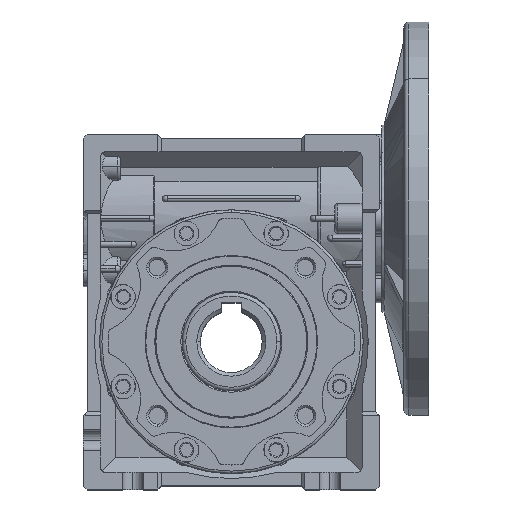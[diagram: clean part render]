
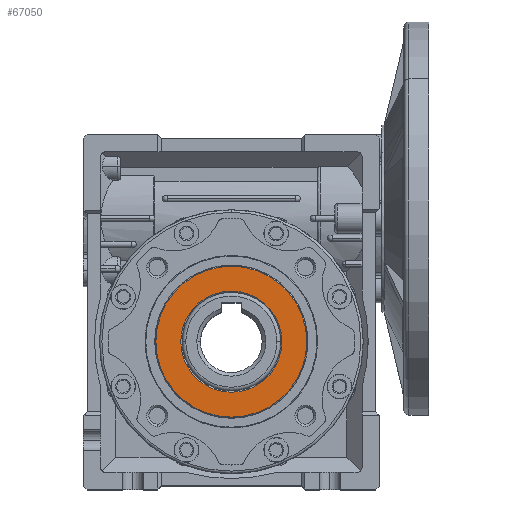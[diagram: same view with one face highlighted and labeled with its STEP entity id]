
A CAD part, top view. The second image highlights one B-rep face of the part: STEP entity #67050.
In plain terms, the highlighted planar face has unit normal (0, 0, 1).
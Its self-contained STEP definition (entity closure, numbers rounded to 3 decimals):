
#1770 = DIRECTION ( 'NONE',  ( 1., 0., 0. ) ) ;
#5031 = EDGE_CURVE ( 'NONE', #17687, #50623, #66646, .T. ) ;
#7743 = CIRCLE ( 'NONE', #42664, 20.5 ) ;
#8557 = CIRCLE ( 'NONE', #25855, 30.6 ) ;
#9462 = CARTESIAN_POINT ( 'NONE',  ( -107.697, 5.85, 11.304 ) ) ;
#11995 = CARTESIAN_POINT ( 'NONE',  ( -107.697, 27.073, 11.304 ) ) ;
#12331 = DIRECTION ( 'NONE',  ( 0., 0., -1. ) ) ;
#12613 = ORIENTED_EDGE ( 'NONE', *, *, #17003, .T. ) ;
#14506 = CARTESIAN_POINT ( 'NONE',  ( -87.197, 5.85, 11.304 ) ) ;
#17003 = EDGE_CURVE ( 'NONE', #51140, #21311, #7743, .T. ) ;
#17687 = VERTEX_POINT ( 'NONE', #50471 ) ;
#18680 = CIRCLE ( 'NONE', #54637, 20.5 ) ;
#20696 = DIRECTION ( 'NONE',  ( 1., 0., 0. ) ) ;
#21311 = VERTEX_POINT ( 'NONE', #14506 ) ;
#22449 = CARTESIAN_POINT ( 'NONE',  ( -128.197, 5.85, 11.304 ) ) ;
#25855 = AXIS2_PLACEMENT_3D ( 'NONE', #9462, #30289, #20696 ) ;
#27722 = DIRECTION ( 'NONE',  ( 0., 0., 1. ) ) ;
#29363 = DIRECTION ( 'NONE',  ( 1., 0., 0. ) ) ;
#30289 = DIRECTION ( 'NONE',  ( 0., 0., 1. ) ) ;
#33160 = EDGE_CURVE ( 'NONE', #21311, #51140, #18680, .T. ) ;
#33485 = CARTESIAN_POINT ( 'NONE',  ( -107.697, 5.85, 11.304 ) ) ;
#33837 = FACE_OUTER_BOUND ( 'NONE', #57244, .T. ) ;
#41937 = EDGE_LOOP ( 'NONE', ( #60184, #12613 ) ) ;
#42664 = AXIS2_PLACEMENT_3D ( 'NONE', #43082, #12331, #58069 ) ;
#43082 = CARTESIAN_POINT ( 'NONE',  ( -107.697, 5.85, 11.304 ) ) ;
#44842 = AXIS2_PLACEMENT_3D ( 'NONE', #48298, #63631, #53080 ) ;
#48298 = CARTESIAN_POINT ( 'NONE',  ( -107.697, 5.85, 11.304 ) ) ;
#48888 = FACE_BOUND ( 'NONE', #41937, .T. ) ;
#49177 = DIRECTION ( 'NONE',  ( 0., 0., -1. ) ) ;
#50471 = CARTESIAN_POINT ( 'NONE',  ( -138.297, 5.85, 11.304 ) ) ;
#50623 = VERTEX_POINT ( 'NONE', #53974 ) ;
#50947 = AXIS2_PLACEMENT_3D ( 'NONE', #11995, #27722, #1770 ) ;
#51140 = VERTEX_POINT ( 'NONE', #22449 ) ;
#53080 = DIRECTION ( 'NONE',  ( 1., 0., 0. ) ) ;
#53974 = CARTESIAN_POINT ( 'NONE',  ( -77.097, 5.85, 11.304 ) ) ;
#54637 = AXIS2_PLACEMENT_3D ( 'NONE', #33485, #49177, #29363 ) ;
#54643 = PLANE ( 'NONE',  #50947 ) ;
#57244 = EDGE_LOOP ( 'NONE', ( #61445, #65411 ) ) ;
#58069 = DIRECTION ( 'NONE',  ( 1., 0., 0. ) ) ;
#59129 = EDGE_CURVE ( 'NONE', #50623, #17687, #8557, .T. ) ;
#60184 = ORIENTED_EDGE ( 'NONE', *, *, #33160, .T. ) ;
#61445 = ORIENTED_EDGE ( 'NONE', *, *, #5031, .T. ) ;
#63631 = DIRECTION ( 'NONE',  ( 0., 0., 1. ) ) ;
#65411 = ORIENTED_EDGE ( 'NONE', *, *, #59129, .T. ) ;
#66646 = CIRCLE ( 'NONE', #44842, 30.6 ) ;
#67050 = ADVANCED_FACE ( 'NONE', ( #33837, #48888 ), #54643, .T. ) ;
